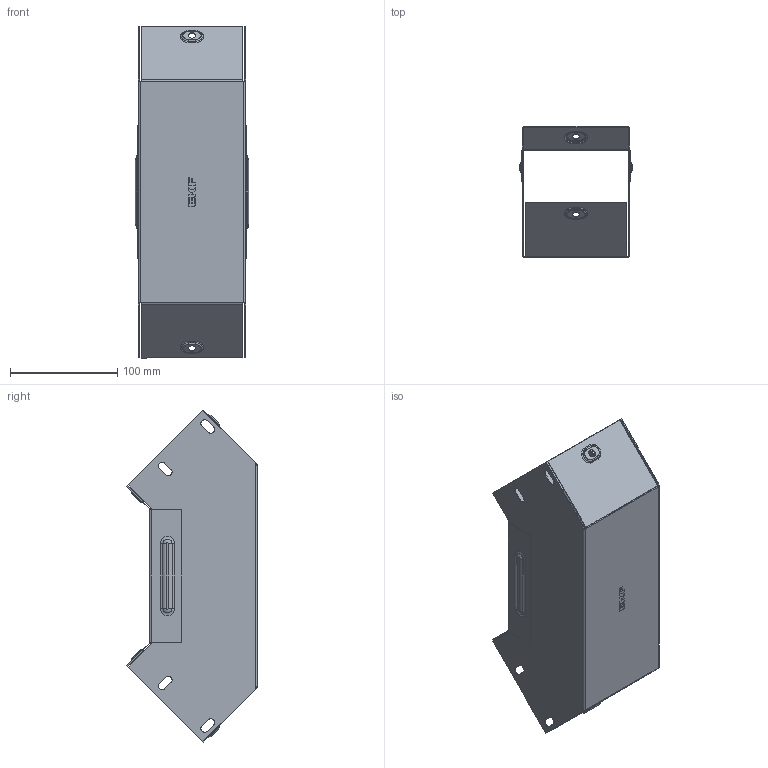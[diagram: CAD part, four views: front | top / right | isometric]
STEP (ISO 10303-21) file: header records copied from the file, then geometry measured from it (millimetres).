
FILE_DESCRIPTION (( 'STEP AP214' ), '1' );
FILE_NAME ('vi90100100_捘.STEP', '2019-06-10T09:22:47', ( '砐錪賧瘔蠈錪 Windows' ), ( '' ), 'SwSTEP 2.0', 'SolidWorks 2018', '' );
FILE_SCHEMA (( 'AUTOMOTIVE_DESIGN' ));
Length unit declared in the file: millimetre
Products named in the file (1): vi90100100_捘
Bounding box: 105.6 x 122.01 x 309.97 mm (x, y, z)
Volume: 89874.1 mm3; surface area: 226781.8 mm2
Topology: 2 solids, 2 shells, 436 faces, 1116 edges, 712 vertices
Faces by surface type: plane 230, cylinder 124, torus 64, bspline 18
Entity records: 14120 total; most frequent: CARTESIAN_POINT 3284, DIRECTION 2262, ORIENTED_EDGE 2232, EDGE_CURVE 1116, AXIS2_PLACEMENT_3D 763, LINE 736, VECTOR 736, VERTEX_POINT 712
